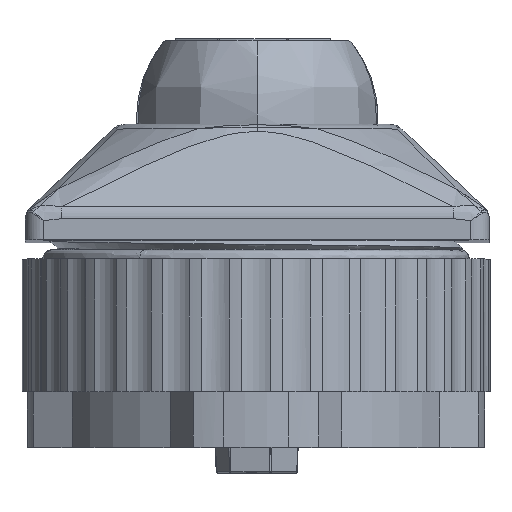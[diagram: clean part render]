
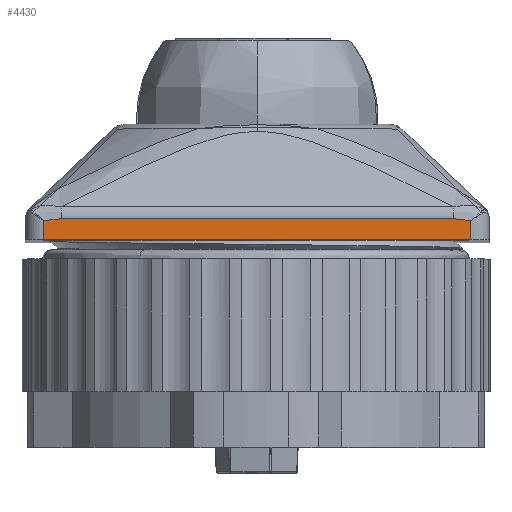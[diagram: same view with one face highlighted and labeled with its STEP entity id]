
A CAD part, top view. The second image highlights one B-rep face of the part: STEP entity #4430.
In plain terms, the highlighted planar face has unit normal (0, 0, 1) as drawn and (0, 0, -1) by its records, which use the part's own axes.
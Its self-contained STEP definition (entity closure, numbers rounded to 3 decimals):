
#689 = VERTEX_POINT ( 'NONE', #7494 ) ;
#712 = VERTEX_POINT ( 'NONE', #7537 ) ;
#714 = EDGE_CURVE ( 'NONE', #712, #689, #7528, .T. ) ;
#3695 = EDGE_CURVE ( 'NONE', #3716, #3770, #15773, .T. ) ;
#3706 = EDGE_CURVE ( 'NONE', #6075, #3716, #15787, .T. ) ;
#3716 = VERTEX_POINT ( 'NONE', #15891 ) ;
#3770 = VERTEX_POINT ( 'NONE', #16184 ) ;
#4365 = ORIENTED_EDGE ( 'NONE', *, *, #714, .F. ) ;
#4366 = EDGE_LOOP ( 'NONE', ( #4365, #4425, #4434, #4433, #4436, #4370 ) ) ;
#4370 = ORIENTED_EDGE ( 'NONE', *, *, #4417, .F. ) ;
#4417 = EDGE_CURVE ( 'NONE', #689, #4428, #17817, .T. ) ;
#4425 = ORIENTED_EDGE ( 'NONE', *, *, #4431, .F. ) ;
#4428 = VERTEX_POINT ( 'NONE', #17848 ) ;
#4430 = ADVANCED_FACE ( 'NONE', ( #17861 ), #17847, .T. ) ;
#4431 = EDGE_CURVE ( 'NONE', #6075, #712, #17839, .T. ) ;
#4433 = ORIENTED_EDGE ( 'NONE', *, *, #3695, .T. ) ;
#4434 = ORIENTED_EDGE ( 'NONE', *, *, #3706, .T. ) ;
#4435 = EDGE_CURVE ( 'NONE', #3770, #4428, #17876, .T. ) ;
#4436 = ORIENTED_EDGE ( 'NONE', *, *, #4435, .T. ) ;
#6075 = VERTEX_POINT ( 'NONE', #26578 ) ;
#7494 = CARTESIAN_POINT ( 'NONE',  ( 347.327, 277.112, -346.026 ) ) ;
#7520 = DIRECTION ( 'NONE',  ( 0., 1., 0. ) ) ;
#7521 = VECTOR ( 'NONE', #7520, 1000. ) ;
#7522 = CARTESIAN_POINT ( 'NONE',  ( 347.327, 279.112, -346.026 ) ) ;
#7528 = LINE ( 'NONE', #7522, #7521 ) ;
#7537 = CARTESIAN_POINT ( 'NONE',  ( 347.327, 231.112, -346.026 ) ) ;
#15767 = DIRECTION ( 'NONE',  ( 0., 1., 0. ) ) ;
#15768 = VECTOR ( 'NONE', #15767, 1000. ) ;
#15769 = CARTESIAN_POINT ( 'NONE',  ( 345.054, 227.622, -346.026 ) ) ;
#15773 = LINE ( 'NONE', #15769, #15768 ) ;
#15784 = CARTESIAN_POINT ( 'NONE',  ( 345.054, 232.431, -346.026 ) ) ;
#15785 = CARTESIAN_POINT ( 'NONE',  ( 345.127, 231.806, -346.026 ) ) ;
#15786 = CARTESIAN_POINT ( 'NONE',  ( 345.274, 231.112, -346.026 ) ) ;
#15787 = B_SPLINE_CURVE_WITH_KNOTS ( 'NONE', 3,
 ( #15786, #15785, #15784, #15850 ),
 .UNSPECIFIED., .F., .F.,
 ( 4, 4 ),
 ( 0., 1. ),
 .UNSPECIFIED. ) ;
#15850 = CARTESIAN_POINT ( 'NONE',  ( 345.054, 232.988, -346.026 ) ) ;
#15891 = CARTESIAN_POINT ( 'NONE',  ( 345.054, 232.988, -346.026 ) ) ;
#16184 = CARTESIAN_POINT ( 'NONE',  ( 345.054, 275.236, -346.026 ) ) ;
#17816 = CARTESIAN_POINT ( 'NONE',  ( 373.197, 277.112, -346.026 ) ) ;
#17817 = LINE ( 'NONE', #17816, #17857 ) ;
#17821 = CARTESIAN_POINT ( 'NONE',  ( 399.067, 227.622, -346.026 ) ) ;
#17838 = DIRECTION ( 'NONE',  ( 0., 1., 0. ) ) ;
#17839 = LINE ( 'NONE', #17840, #17881 ) ;
#17840 = CARTESIAN_POINT ( 'NONE',  ( 373.197, 231.112, -346.026 ) ) ;
#17842 = AXIS2_PLACEMENT_3D ( 'NONE', #17821, #17864, #17838 ) ;
#17847 = PLANE ( 'NONE',  #17842 ) ;
#17848 = CARTESIAN_POINT ( 'NONE',  ( 345.274, 277.112, -346.026 ) ) ;
#17856 = DIRECTION ( 'NONE',  ( -1., 0., 0. ) ) ;
#17857 = VECTOR ( 'NONE', #17856, 1000. ) ;
#17861 = FACE_OUTER_BOUND ( 'NONE', #4366, .T. ) ;
#17864 = DIRECTION ( 'NONE',  ( 0., 0., -1. ) ) ;
#17869 = CARTESIAN_POINT ( 'NONE',  ( 345.274, 277.112, -346.026 ) ) ;
#17870 = CARTESIAN_POINT ( 'NONE',  ( 345.127, 276.419, -346.026 ) ) ;
#17871 = CARTESIAN_POINT ( 'NONE',  ( 345.054, 275.793, -346.026 ) ) ;
#17872 = CARTESIAN_POINT ( 'NONE',  ( 345.054, 275.236, -346.026 ) ) ;
#17876 = B_SPLINE_CURVE_WITH_KNOTS ( 'NONE', 3,
 ( #17872, #17871, #17870, #17869 ),
 .UNSPECIFIED., .F., .F.,
 ( 4, 4 ),
 ( 0., 1. ),
 .UNSPECIFIED. ) ;
#17880 = DIRECTION ( 'NONE',  ( 1., 0., 0. ) ) ;
#17881 = VECTOR ( 'NONE', #17880, 1000. ) ;
#26578 = CARTESIAN_POINT ( 'NONE',  ( 345.274, 231.112, -346.026 ) ) ;
